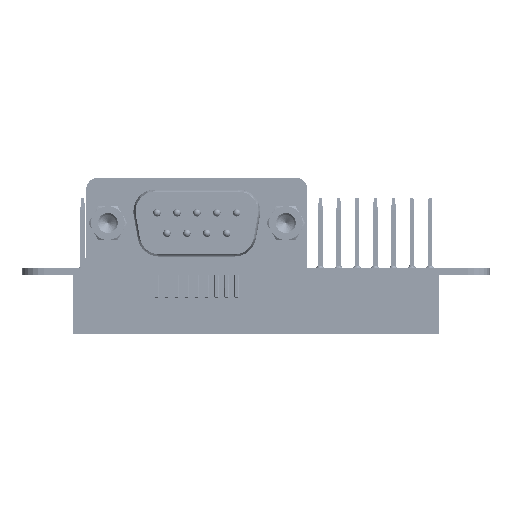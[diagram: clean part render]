
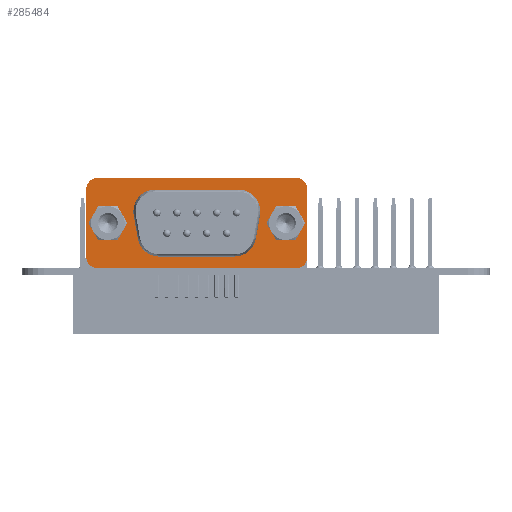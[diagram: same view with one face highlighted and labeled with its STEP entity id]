
A CAD part, front view. The second image highlights one B-rep face of the part: STEP entity #285484.
In plain terms, the highlighted planar face has unit normal (0, -1, 0) as drawn and (0, 1, 0) by its records, which use the part's own axes.
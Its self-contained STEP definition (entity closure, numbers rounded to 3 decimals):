
#1180=FACE_BOUND('',#29334,.T.);
#1181=FACE_BOUND('',#29335,.T.);
#1182=FACE_BOUND('',#29336,.T.);
#2538=CIRCLE('',#312153,3.04);
#2540=CIRCLE('',#312156,1.57);
#2541=CIRCLE('',#312157,1.57);
#2542=CIRCLE('',#312158,1.57);
#2543=CIRCLE('',#312159,1.57);
#2544=CIRCLE('',#312160,3.04);
#2545=CIRCLE('',#312161,3.04);
#2546=CIRCLE('',#312162,3.04);
#3770=FACE_OUTER_BOUND('',#29333,.T.);
#29333=EDGE_LOOP('',(#186998,#186999,#187000,#187001,#187002,#187003,#187004,
#187005));
#29334=EDGE_LOOP('',(#187006,#187007,#187008,#187009,#187010,#187011));
#29335=EDGE_LOOP('',(#187012,#187013,#187014,#187015,#187016,#187017));
#29336=EDGE_LOOP('',(#187018,#187019,#187020,#187021,#187022,#187023,#187024,
#187025));
#54668=LINE('',#435654,#92191);
#54677=LINE('',#435696,#92200);
#54678=LINE('',#435700,#92201);
#54679=LINE('',#435704,#92202);
#54680=LINE('',#435708,#92203);
#54681=LINE('',#435712,#92204);
#54682=LINE('',#435714,#92205);
#54683=LINE('',#435716,#92206);
#54684=LINE('',#435718,#92207);
#54685=LINE('',#435720,#92208);
#54686=LINE('',#435721,#92209);
#54687=LINE('',#435724,#92210);
#54688=LINE('',#435726,#92211);
#54689=LINE('',#435728,#92212);
#54690=LINE('',#435730,#92213);
#54691=LINE('',#435732,#92214);
#54692=LINE('',#435733,#92215);
#54693=LINE('',#435735,#92216);
#54694=LINE('',#435739,#92217);
#54695=LINE('',#435743,#92218);
#92191=VECTOR('',#341848,1.);
#92200=VECTOR('',#341885,1.);
#92201=VECTOR('',#341888,1.);
#92202=VECTOR('',#341891,1.);
#92203=VECTOR('',#341894,1.);
#92204=VECTOR('',#341897,1.);
#92205=VECTOR('',#341898,1.);
#92206=VECTOR('',#341899,1.);
#92207=VECTOR('',#341900,1.);
#92208=VECTOR('',#341901,1.);
#92209=VECTOR('',#341902,1.);
#92210=VECTOR('',#341903,1.);
#92211=VECTOR('',#341904,1.);
#92212=VECTOR('',#341905,1.);
#92213=VECTOR('',#341906,1.);
#92214=VECTOR('',#341907,1.);
#92215=VECTOR('',#341908,1.);
#92216=VECTOR('',#341909,1.);
#92217=VECTOR('',#341912,1.);
#92218=VECTOR('',#341915,1.);
#130489=VERTEX_POINT('',#435650);
#130490=VERTEX_POINT('',#435652);
#130506=VERTEX_POINT('',#435688);
#130508=VERTEX_POINT('',#435694);
#130509=VERTEX_POINT('',#435695);
#130510=VERTEX_POINT('',#435697);
#130511=VERTEX_POINT('',#435699);
#130512=VERTEX_POINT('',#435701);
#130513=VERTEX_POINT('',#435703);
#130514=VERTEX_POINT('',#435705);
#130515=VERTEX_POINT('',#435707);
#130516=VERTEX_POINT('',#435710);
#130517=VERTEX_POINT('',#435711);
#130518=VERTEX_POINT('',#435713);
#130519=VERTEX_POINT('',#435715);
#130520=VERTEX_POINT('',#435717);
#130521=VERTEX_POINT('',#435719);
#130522=VERTEX_POINT('',#435722);
#130523=VERTEX_POINT('',#435723);
#130524=VERTEX_POINT('',#435725);
#130525=VERTEX_POINT('',#435727);
#130526=VERTEX_POINT('',#435729);
#130527=VERTEX_POINT('',#435731);
#130528=VERTEX_POINT('',#435734);
#130529=VERTEX_POINT('',#435736);
#130530=VERTEX_POINT('',#435738);
#130531=VERTEX_POINT('',#435740);
#130532=VERTEX_POINT('',#435742);
#145449=EDGE_CURVE('',#130490,#130489,#54668,.T.);
#145466=EDGE_CURVE('',#130506,#130489,#2538,.T.);
#145469=EDGE_CURVE('',#130508,#130509,#54677,.T.);
#145470=EDGE_CURVE('',#130510,#130508,#2540,.T.);
#145471=EDGE_CURVE('',#130511,#130510,#54678,.T.);
#145472=EDGE_CURVE('',#130512,#130511,#2541,.T.);
#145473=EDGE_CURVE('',#130513,#130512,#54679,.T.);
#145474=EDGE_CURVE('',#130514,#130513,#2542,.T.);
#145475=EDGE_CURVE('',#130515,#130514,#54680,.T.);
#145476=EDGE_CURVE('',#130509,#130515,#2543,.T.);
#145477=EDGE_CURVE('',#130516,#130517,#54681,.T.);
#145478=EDGE_CURVE('',#130518,#130516,#54682,.T.);
#145479=EDGE_CURVE('',#130519,#130518,#54683,.T.);
#145480=EDGE_CURVE('',#130520,#130519,#54684,.T.);
#145481=EDGE_CURVE('',#130521,#130520,#54685,.T.);
#145482=EDGE_CURVE('',#130517,#130521,#54686,.T.);
#145483=EDGE_CURVE('',#130522,#130523,#54687,.T.);
#145484=EDGE_CURVE('',#130524,#130522,#54688,.T.);
#145485=EDGE_CURVE('',#130525,#130524,#54689,.T.);
#145486=EDGE_CURVE('',#130526,#130525,#54690,.T.);
#145487=EDGE_CURVE('',#130527,#130526,#54691,.T.);
#145488=EDGE_CURVE('',#130523,#130527,#54692,.T.);
#145489=EDGE_CURVE('',#130506,#130528,#54693,.T.);
#145490=EDGE_CURVE('',#130529,#130490,#2544,.T.);
#145491=EDGE_CURVE('',#130530,#130529,#54694,.T.);
#145492=EDGE_CURVE('',#130531,#130530,#2545,.T.);
#145493=EDGE_CURVE('',#130532,#130531,#54695,.T.);
#145494=EDGE_CURVE('',#130528,#130532,#2546,.T.);
#186998=ORIENTED_EDGE('',*,*,#145469,.F.);
#186999=ORIENTED_EDGE('',*,*,#145470,.F.);
#187000=ORIENTED_EDGE('',*,*,#145471,.F.);
#187001=ORIENTED_EDGE('',*,*,#145472,.F.);
#187002=ORIENTED_EDGE('',*,*,#145473,.F.);
#187003=ORIENTED_EDGE('',*,*,#145474,.F.);
#187004=ORIENTED_EDGE('',*,*,#145475,.F.);
#187005=ORIENTED_EDGE('',*,*,#145476,.F.);
#187006=ORIENTED_EDGE('',*,*,#145477,.F.);
#187007=ORIENTED_EDGE('',*,*,#145478,.F.);
#187008=ORIENTED_EDGE('',*,*,#145479,.F.);
#187009=ORIENTED_EDGE('',*,*,#145480,.F.);
#187010=ORIENTED_EDGE('',*,*,#145481,.F.);
#187011=ORIENTED_EDGE('',*,*,#145482,.F.);
#187012=ORIENTED_EDGE('',*,*,#145483,.F.);
#187013=ORIENTED_EDGE('',*,*,#145484,.F.);
#187014=ORIENTED_EDGE('',*,*,#145485,.F.);
#187015=ORIENTED_EDGE('',*,*,#145486,.F.);
#187016=ORIENTED_EDGE('',*,*,#145487,.F.);
#187017=ORIENTED_EDGE('',*,*,#145488,.F.);
#187018=ORIENTED_EDGE('',*,*,#145489,.F.);
#187019=ORIENTED_EDGE('',*,*,#145466,.T.);
#187020=ORIENTED_EDGE('',*,*,#145449,.F.);
#187021=ORIENTED_EDGE('',*,*,#145490,.F.);
#187022=ORIENTED_EDGE('',*,*,#145491,.F.);
#187023=ORIENTED_EDGE('',*,*,#145492,.F.);
#187024=ORIENTED_EDGE('',*,*,#145493,.F.);
#187025=ORIENTED_EDGE('',*,*,#145494,.F.);
#260462=PLANE('',#312155);
#285484=ADVANCED_FACE('',(#3770,#1180,#1181,#1182),#260462,.F.);
#312153=AXIS2_PLACEMENT_3D('',#435689,#341878,#341879);
#312155=AXIS2_PLACEMENT_3D('',#435693,#341883,#341884);
#312156=AXIS2_PLACEMENT_3D('',#435698,#341886,#341887);
#312157=AXIS2_PLACEMENT_3D('',#435702,#341889,#341890);
#312158=AXIS2_PLACEMENT_3D('',#435706,#341892,#341893);
#312159=AXIS2_PLACEMENT_3D('',#435709,#341895,#341896);
#312160=AXIS2_PLACEMENT_3D('',#435737,#341910,#341911);
#312161=AXIS2_PLACEMENT_3D('',#435741,#341913,#341914);
#312162=AXIS2_PLACEMENT_3D('',#435744,#341916,#341917);
#341848=DIRECTION('',(-0.174,0.,-0.985));
#341878=DIRECTION('center_axis',(0.,-1.,0.));
#341879=DIRECTION('ref_axis',(0.,0.,1.));
#341883=DIRECTION('center_axis',(0.,-1.,0.));
#341884=DIRECTION('ref_axis',(1.,0.,0.));
#341885=DIRECTION('',(1.,0.,0.));
#341886=DIRECTION('center_axis',(0.,-1.,0.));
#341887=DIRECTION('ref_axis',(0.,0.,-1.));
#341888=DIRECTION('',(0.,0.,-1.));
#341889=DIRECTION('center_axis',(0.,-1.,0.));
#341890=DIRECTION('ref_axis',(0.,0.,-1.));
#341891=DIRECTION('',(-1.,0.,0.));
#341892=DIRECTION('center_axis',(0.,-1.,0.));
#341893=DIRECTION('ref_axis',(0.,0.,-1.));
#341894=DIRECTION('',(0.,0.,1.));
#341895=DIRECTION('center_axis',(0.,-1.,0.));
#341896=DIRECTION('ref_axis',(0.,0.,-1.));
#341897=DIRECTION('',(-0.5,0.,0.866));
#341898=DIRECTION('',(-1.,0.,0.));
#341899=DIRECTION('',(-0.5,0.,-0.866));
#341900=DIRECTION('',(0.5,0.,-0.866));
#341901=DIRECTION('',(1.,0.,0.));
#341902=DIRECTION('',(0.5,0.,0.866));
#341903=DIRECTION('',(-0.5,0.,-0.866));
#341904=DIRECTION('',(0.5,0.,-0.866));
#341905=DIRECTION('',(1.,0.,0.));
#341906=DIRECTION('',(0.5,0.,0.866));
#341907=DIRECTION('',(-0.5,0.,0.866));
#341908=DIRECTION('',(-1.,0.,0.));
#341909=DIRECTION('',(-1.,0.,0.));
#341910=DIRECTION('center_axis',(0.,1.,0.));
#341911=DIRECTION('ref_axis',(0.,0.,1.));
#341912=DIRECTION('',(1.,0.,0.));
#341913=DIRECTION('center_axis',(0.,1.,0.));
#341914=DIRECTION('ref_axis',(0.,0.,1.));
#341915=DIRECTION('',(-0.174,0.,0.985));
#341916=DIRECTION('center_axis',(0.,1.,0.));
#341917=DIRECTION('ref_axis',(0.,0.,1.));
#435650=CARTESIAN_POINT('',(8.204,8.2,4.132));
#435652=CARTESIAN_POINT('',(8.774,8.2,7.362));
#435654=CARTESIAN_POINT('',(8.489,8.2,5.747));
#435688=CARTESIAN_POINT('',(5.21,8.2,1.62));
#435689=CARTESIAN_POINT('Origin',(5.21,8.2,4.66));
#435693=CARTESIAN_POINT('Origin',(-15.36,8.2,0.));
#435694=CARTESIAN_POINT('',(-13.79,8.2,0.));
#435695=CARTESIAN_POINT('',(13.79,8.2,0.));
#435696=CARTESIAN_POINT('',(0.,8.2,0.));
#435697=CARTESIAN_POINT('',(-15.36,8.2,1.57));
#435698=CARTESIAN_POINT('Origin',(-13.79,8.2,1.57));
#435699=CARTESIAN_POINT('',(-15.36,8.2,10.98));
#435700=CARTESIAN_POINT('',(-15.36,8.2,6.275));
#435701=CARTESIAN_POINT('',(-13.79,8.2,12.55));
#435702=CARTESIAN_POINT('Origin',(-13.79,8.2,10.98));
#435703=CARTESIAN_POINT('',(13.79,8.2,12.55));
#435704=CARTESIAN_POINT('',(0.,8.2,12.55));
#435705=CARTESIAN_POINT('',(15.36,8.2,10.98));
#435706=CARTESIAN_POINT('Origin',(13.79,8.2,10.98));
#435707=CARTESIAN_POINT('',(15.36,8.2,1.57));
#435708=CARTESIAN_POINT('',(15.36,8.2,6.275));
#435709=CARTESIAN_POINT('Origin',(13.79,8.2,1.57));
#435710=CARTESIAN_POINT('',(-13.711,8.2,3.935));
#435711=CARTESIAN_POINT('',(-15.062,8.2,6.275));
#435712=CARTESIAN_POINT('',(-13.711,8.2,3.935));
#435713=CARTESIAN_POINT('',(-11.009,8.2,3.935));
#435714=CARTESIAN_POINT('',(0.,8.2,3.935));
#435715=CARTESIAN_POINT('',(-9.658,8.2,6.275));
#435716=CARTESIAN_POINT('',(-9.658,8.2,6.275));
#435717=CARTESIAN_POINT('',(-11.009,8.2,8.615));
#435718=CARTESIAN_POINT('',(-11.009,8.2,8.615));
#435719=CARTESIAN_POINT('',(-13.711,8.2,8.615));
#435720=CARTESIAN_POINT('',(0.,8.2,8.615));
#435721=CARTESIAN_POINT('',(-15.062,8.2,6.275));
#435722=CARTESIAN_POINT('',(15.062,8.2,6.275));
#435723=CARTESIAN_POINT('',(13.711,8.2,3.935));
#435724=CARTESIAN_POINT('',(15.062,8.2,6.275));
#435725=CARTESIAN_POINT('',(13.711,8.2,8.615));
#435726=CARTESIAN_POINT('',(13.711,8.2,8.615));
#435727=CARTESIAN_POINT('',(11.009,8.2,8.615));
#435728=CARTESIAN_POINT('',(0.,8.2,8.615));
#435729=CARTESIAN_POINT('',(9.658,8.2,6.275));
#435730=CARTESIAN_POINT('',(9.658,8.2,6.275));
#435731=CARTESIAN_POINT('',(11.009,8.2,3.935));
#435732=CARTESIAN_POINT('',(11.009,8.2,3.935));
#435733=CARTESIAN_POINT('',(0.,8.2,3.935));
#435734=CARTESIAN_POINT('',(-5.21,8.2,1.62));
#435735=CARTESIAN_POINT('',(0.,8.2,1.62));
#435736=CARTESIAN_POINT('',(5.78,8.2,10.93));
#435737=CARTESIAN_POINT('Origin',(5.78,8.2,7.89));
#435738=CARTESIAN_POINT('',(-5.78,8.2,10.93));
#435739=CARTESIAN_POINT('',(0.,8.2,10.93));
#435740=CARTESIAN_POINT('',(-8.774,8.2,7.362));
#435741=CARTESIAN_POINT('Origin',(-5.78,8.2,7.89));
#435742=CARTESIAN_POINT('',(-8.204,8.2,4.132));
#435743=CARTESIAN_POINT('',(-8.204,8.2,4.132));
#435744=CARTESIAN_POINT('Origin',(-5.21,8.2,4.66));
